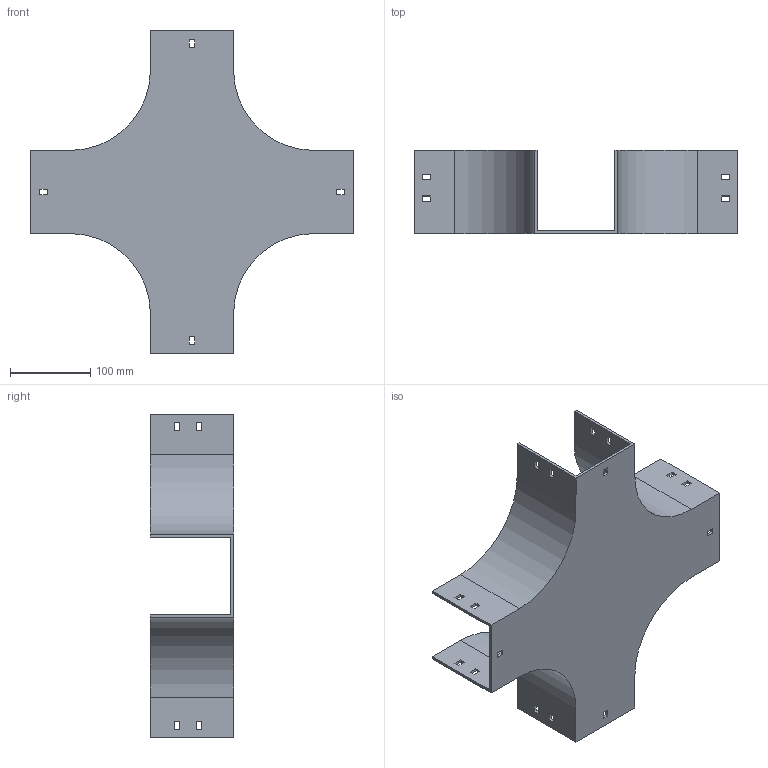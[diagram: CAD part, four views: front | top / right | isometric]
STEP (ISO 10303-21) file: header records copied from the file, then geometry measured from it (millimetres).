
FILE_DESCRIPTION (( 'STEP AP214' ), '1' );
FILE_NAME ('17B1D100.step', '2025-02-21T09:56:05', ( '' ), ( '' ), 'SwSTEP 2.0', 'SolidWorks 2023', '' );
FILE_SCHEMA (( 'AUTOMOTIVE_DESIGN' ));
Length unit declared in the file: millimetre
Products named in the file (1): 17B1D100
Bounding box: 404 x 104 x 404 mm (x, y, z)
Volume: 647140 mm3; surface area: 380001.4 mm2
Topology: 1 solids, 1 shells, 114 faces, 336 edges, 224 vertices
Faces by surface type: plane 106, cylinder 8
Entity records: 3839 total; most frequent: CARTESIAN_POINT 675, ORIENTED_EDGE 672, DIRECTION 582, EDGE_CURVE 336, LINE 320, VECTOR 320, VERTEX_POINT 224, EDGE_LOOP 154
